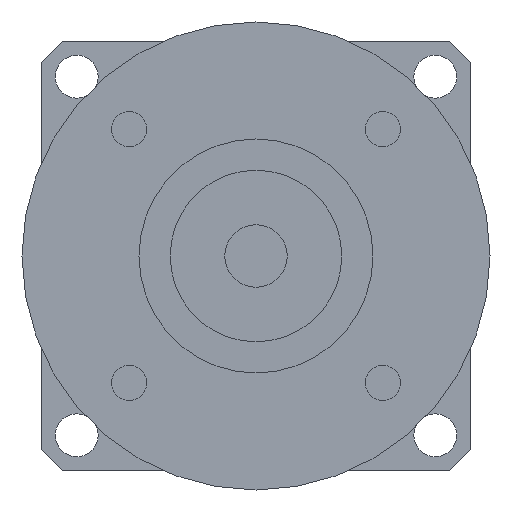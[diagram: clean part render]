
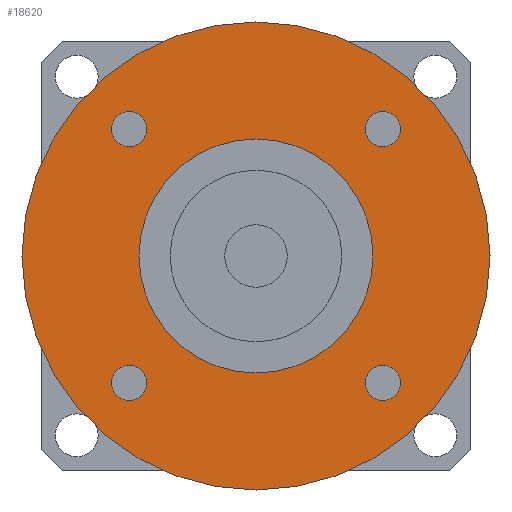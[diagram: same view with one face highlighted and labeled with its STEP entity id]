
A CAD part, left-side view. The second image highlights one B-rep face of the part: STEP entity #18620.
In plain terms, the highlighted planar face has unit normal (-1, 0, 0) as drawn and (0, 0, -1) by its records, which use the part's own axes.
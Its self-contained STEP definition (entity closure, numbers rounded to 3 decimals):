
#11050=CARTESIAN_POINT('',(0.,0.,
-58.));
#11060=DIRECTION('',(0.,0.,1.));
#11070=DIRECTION('',(0.,-1.,0.));
#11080=AXIS2_PLACEMENT_3D('',#11050,#11060,#11070);
#11090=CIRCLE('',#11080,15.);
#11100=CARTESIAN_POINT('',(0.,-15.,-58.));
#11110=VERTEX_POINT('',#11100);
#11120=CARTESIAN_POINT('',(15.,0.,-58.));
#11130=VERTEX_POINT('',#11120);
#11140=EDGE_CURVE('',#11110,#11130,#11090,.T.);
#11370=CARTESIAN_POINT('',(-15.,0.,-58.));
#11380=VERTEX_POINT('',#11370);
#11410=EDGE_CURVE('',#11380,#11110,#11090,.T.);
#12740=CARTESIAN_POINT('',(-14.013,-16.263,-58.));
#12750=VERTEX_POINT('',#12740);
#12930=CARTESIAN_POINT('',(-18.513,-16.263,-58.));
#12940=VERTEX_POINT('',#12930);
#12970=CARTESIAN_POINT('',(-16.263,-16.263,-58.));
#12980=DIRECTION('',(0.,0.,-1.));
#12990=DIRECTION('',(0.,-1.,0.));
#13000=AXIS2_PLACEMENT_3D('',#12970,#12980,#12990);
#13010=CIRCLE('',#13000,2.25);
#13020=CARTESIAN_POINT('',(-16.263,-18.513,-58.));
#13030=VERTEX_POINT('',#13020);
#13040=EDGE_CURVE('',#13030,#12940,#13010,.T.);
#13060=EDGE_CURVE('',#12750,#13030,#13010,.T.);
#17550=CARTESIAN_POINT('',(30.,0.,-58.));
#17560=VERTEX_POINT('',#17550);
#17590=CARTESIAN_POINT('',(0.,0.,
-58.));
#17600=DIRECTION('',(0.,0.,1.));
#17610=DIRECTION('',(0.,-1.,0.));
#17620=AXIS2_PLACEMENT_3D('',#17590,#17600,#17610);
#17630=CIRCLE('',#17620,30.);
#17640=CARTESIAN_POINT('',(0.,-30.,-58.));
#17650=VERTEX_POINT('',#17640);
#17660=EDGE_CURVE('',#17650,#17560,#17630,.T.);
#17680=CARTESIAN_POINT('',(-30.,0.,-58.));
#17690=VERTEX_POINT('',#17680);
#17700=EDGE_CURVE('',#17690,#17650,#17630,.T.);
#17820=CARTESIAN_POINT('',(0.,0.,
-58.));
#17830=DIRECTION('',(0.,0.,1.));
#17840=DIRECTION('',(-1.,0.,0.));
#17850=AXIS2_PLACEMENT_3D('',#17820,#17830,#17840);
#17860=PLANE('',#17850);
#17870=CARTESIAN_POINT('',(16.263,-16.263,-58.));
#17880=DIRECTION('',(0.,0.,-1.));
#17890=DIRECTION('',(1.,0.,0.));
#17900=AXIS2_PLACEMENT_3D('',#17870,#17880,#17890);
#17910=CIRCLE('',#17900,2.25);
#17920=CARTESIAN_POINT('',(18.513,-16.263,-58.));
#17930=VERTEX_POINT('',#17920);
#17940=CARTESIAN_POINT('',(16.263,-18.513,-58.));
#17950=VERTEX_POINT('',#17940);
#17960=EDGE_CURVE('',#17930,#17950,#17910,.T.);
#17970=ORIENTED_EDGE('',*,*,#17960,.F.);
#17980=CARTESIAN_POINT('',(16.263,-14.013,-58.));
#17990=VERTEX_POINT('',#17980);
#18000=EDGE_CURVE('',#17950,#17990,#17910,.T.);
#18010=ORIENTED_EDGE('',*,*,#18000,.F.);
#18020=EDGE_CURVE('',#17990,#17930,#17910,.T.);
#18030=ORIENTED_EDGE('',*,*,#18020,.F.);
#18040=EDGE_LOOP('',(#18030,#18010,#17970));
#18050=FACE_BOUND('',#18040,.T.);
#18060=CARTESIAN_POINT('',(16.263,16.263,-58.));
#18070=DIRECTION('',(0.,0.,-1.));
#18080=DIRECTION('',(0.,1.,0.));
#18090=AXIS2_PLACEMENT_3D('',#18060,#18070,#18080);
#18100=CIRCLE('',#18090,2.25);
#18110=CARTESIAN_POINT('',(16.263,18.513,-58.));
#18120=VERTEX_POINT('',#18110);
#18130=CARTESIAN_POINT('',(18.513,16.263,-58.));
#18140=VERTEX_POINT('',#18130);
#18150=EDGE_CURVE('',#18120,#18140,#18100,.T.);
#18160=ORIENTED_EDGE('',*,*,#18150,.F.);
#18170=CARTESIAN_POINT('',(14.013,16.263,-58.));
#18180=VERTEX_POINT('',#18170);
#18190=EDGE_CURVE('',#18140,#18180,#18100,.T.);
#18200=ORIENTED_EDGE('',*,*,#18190,.F.);
#18210=EDGE_CURVE('',#18180,#18120,#18100,.T.);
#18220=ORIENTED_EDGE('',*,*,#18210,.F.);
#18230=EDGE_LOOP('',(#18220,#18200,#18160));
#18240=FACE_BOUND('',#18230,.T.);
#18250=CARTESIAN_POINT('',(-16.263,16.263,-58.));
#18260=DIRECTION('',(0.,0.,-1.));
#18270=DIRECTION('',(-1.,0.,0.));
#18280=AXIS2_PLACEMENT_3D('',#18250,#18260,#18270);
#18290=CIRCLE('',#18280,2.25);
#18300=CARTESIAN_POINT('',(-18.513,16.263,-58.));
#18310=VERTEX_POINT('',#18300);
#18320=CARTESIAN_POINT('',(-16.263,18.513,-58.));
#18330=VERTEX_POINT('',#18320);
#18340=EDGE_CURVE('',#18310,#18330,#18290,.T.);
#18350=ORIENTED_EDGE('',*,*,#18340,.F.);
#18360=CARTESIAN_POINT('',(-16.263,14.013,-58.));
#18370=VERTEX_POINT('',#18360);
#18380=EDGE_CURVE('',#18330,#18370,#18290,.T.);
#18390=ORIENTED_EDGE('',*,*,#18380,.F.);
#18400=EDGE_CURVE('',#18370,#18310,#18290,.T.);
#18410=ORIENTED_EDGE('',*,*,#18400,.F.);
#18420=EDGE_LOOP('',(#18410,#18390,#18350));
#18430=FACE_BOUND('',#18420,.T.);
#18440=ORIENTED_EDGE('',*,*,#13040,.F.);
#18450=EDGE_CURVE('',#12940,#12750,#13010,.T.);
#18460=ORIENTED_EDGE('',*,*,#18450,.F.);
#18470=ORIENTED_EDGE('',*,*,#13060,.F.);
#18480=EDGE_LOOP('',(#18470,#18460,#18440));
#18490=FACE_BOUND('',#18480,.T.);
#18500=ORIENTED_EDGE('',*,*,#17660,.F.);
#18510=EDGE_CURVE('',#17560,#17690,#17630,.T.);
#18520=ORIENTED_EDGE('',*,*,#18510,.F.);
#18530=ORIENTED_EDGE('',*,*,#17700,.F.);
#18540=EDGE_LOOP('',(#18530,#18520,#18500));
#18550=FACE_OUTER_BOUND('',#18540,.T.);
#18560=EDGE_CURVE('',#11130,#11380,#11090,.T.);
#18570=ORIENTED_EDGE('',*,*,#18560,.T.);
#18580=ORIENTED_EDGE('',*,*,#11140,.T.);
#18590=ORIENTED_EDGE('',*,*,#11410,.T.);
#18600=EDGE_LOOP('',(#18590,#18580,#18570));
#18610=FACE_BOUND('',#18600,.T.);
#18620=ADVANCED_FACE('',(#18050,#18240,#18430,#18490,#18550,#18610),
#17860,.F.);
